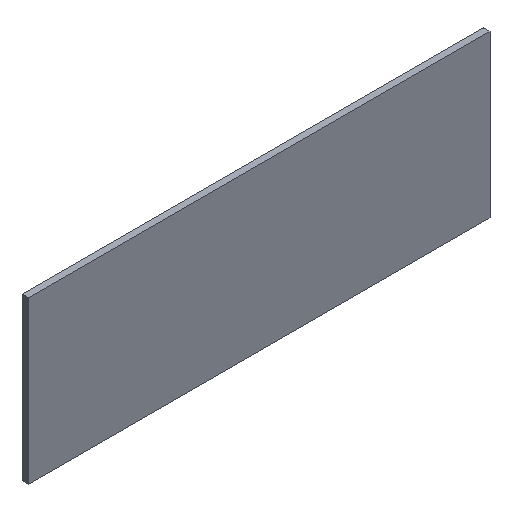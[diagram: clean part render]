
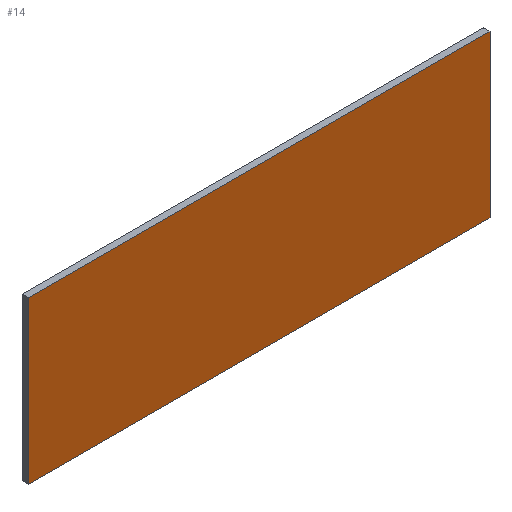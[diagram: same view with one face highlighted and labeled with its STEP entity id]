
A CAD part, isometric view. The second image highlights one B-rep face of the part: STEP entity #14.
In plain terms, the highlighted planar face has unit normal (0, -1, 0).
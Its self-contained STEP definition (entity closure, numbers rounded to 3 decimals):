
#1 = EDGE_CURVE ( 'NONE', #237, #159, #149, .T. ) ;
#3 = CARTESIAN_POINT ( 'NONE',  ( -700., -20., -245. ) ) ;
#8 = CARTESIAN_POINT ( 'NONE',  ( -700., -20., 245. ) ) ;
#9 = DIRECTION ( 'NONE',  ( 0., 0., 1. ) ) ;
#10 = CARTESIAN_POINT ( 'NONE',  ( -700., -20., -245. ) ) ;
#11 = VECTOR ( 'NONE', #116, 1000. ) ;
#14 = ADVANCED_FACE ( 'NONE', ( #58 ), #188, .F. ) ;
#25 = CARTESIAN_POINT ( 'NONE',  ( 700., -20., 245. ) ) ;
#57 = VERTEX_POINT ( 'NONE', #8 ) ;
#58 = FACE_OUTER_BOUND ( 'NONE', #95, .T. ) ;
#62 = DIRECTION ( 'NONE',  ( 0., 0., -1. ) ) ;
#73 = VERTEX_POINT ( 'NONE', #25 ) ;
#80 = LINE ( 'NONE', #184, #11 ) ;
#83 = DIRECTION ( 'NONE',  ( -1., 0., 0. ) ) ;
#87 = EDGE_CURVE ( 'NONE', #73, #237, #151, .T. ) ;
#89 = LINE ( 'NONE', #10, #175 ) ;
#95 = EDGE_LOOP ( 'NONE', ( #129, #111, #146, #132 ) ) ;
#102 = CARTESIAN_POINT ( 'NONE',  ( -700., -20., -245. ) ) ;
#103 = AXIS2_PLACEMENT_3D ( 'NONE', #208, #166, #204 ) ;
#104 = CARTESIAN_POINT ( 'NONE',  ( 700., -20., -245. ) ) ;
#111 = ORIENTED_EDGE ( 'NONE', *, *, #1, .F. ) ;
#116 = DIRECTION ( 'NONE',  ( 1., 0., 0. ) ) ;
#122 = EDGE_CURVE ( 'NONE', #57, #73, #80, .T. ) ;
#129 = ORIENTED_EDGE ( 'NONE', *, *, #225, .F. ) ;
#132 = ORIENTED_EDGE ( 'NONE', *, *, #122, .F. ) ;
#146 = ORIENTED_EDGE ( 'NONE', *, *, #87, .F. ) ;
#149 = LINE ( 'NONE', #102, #172 ) ;
#151 = LINE ( 'NONE', #227, #205 ) ;
#159 = VERTEX_POINT ( 'NONE', #3 ) ;
#166 = DIRECTION ( 'NONE',  ( 0., 1., 0. ) ) ;
#172 = VECTOR ( 'NONE', #83, 1000. ) ;
#175 = VECTOR ( 'NONE', #9, 1000. ) ;
#184 = CARTESIAN_POINT ( 'NONE',  ( -700., -20., 245. ) ) ;
#188 = PLANE ( 'NONE',  #103 ) ;
#204 = DIRECTION ( 'NONE',  ( 0., 0., 1. ) ) ;
#205 = VECTOR ( 'NONE', #62, 1000. ) ;
#208 = CARTESIAN_POINT ( 'NONE',  ( 0., -20., 0. ) ) ;
#225 = EDGE_CURVE ( 'NONE', #159, #57, #89, .T. ) ;
#227 = CARTESIAN_POINT ( 'NONE',  ( 700., -20., -245. ) ) ;
#237 = VERTEX_POINT ( 'NONE', #104 ) ;
